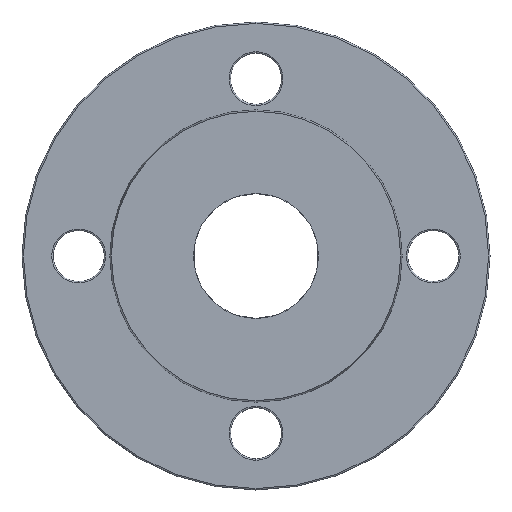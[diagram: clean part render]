
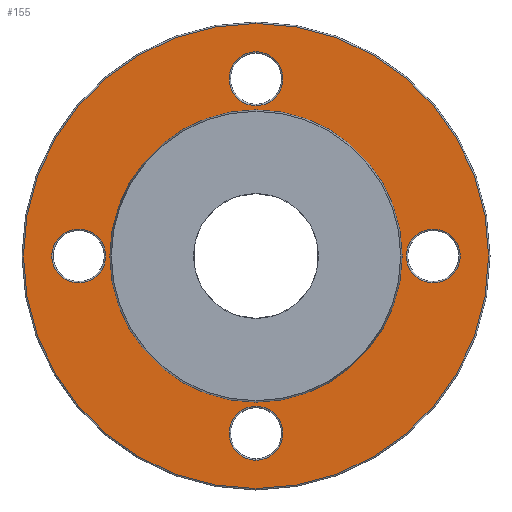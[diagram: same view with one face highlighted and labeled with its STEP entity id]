
A CAD part, left-side view. The second image highlights one B-rep face of the part: STEP entity #155.
In plain terms, the highlighted planar face has unit normal (-1, 0, 0).
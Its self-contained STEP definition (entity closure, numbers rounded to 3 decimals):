
#118 = EDGE_CURVE ( 'NONE', #615, #616, #359, .T. ) ;
#121 = EDGE_CURVE ( 'NONE', #655, #662, #352, .T. ) ;
#122 = EDGE_CURVE ( 'NONE', #646, #643, #350, .T. ) ;
#123 = EDGE_CURVE ( 'NONE', #629, #628, #348, .T. ) ;
#124 = EDGE_CURVE ( 'NONE', #625, #624, #346, .T. ) ;
#125 = EDGE_CURVE ( 'NONE', #621, #620, #344, .T. ) ;
#126 = EDGE_CURVE ( 'NONE', #616, #615, #342, .T. ) ;
#155 = ADVANCED_FACE ( 'NONE', ( #963, #968, #970, #972, #966, #967 ), #974, .F. ) ;
#202 = CARTESIAN_POINT ( 'NONE',  ( 3., 0., 0. ) ) ;
#203 = DIRECTION ( 'NONE',  ( -1., 0., 0. ) ) ;
#204 = DIRECTION ( 'NONE',  ( 0., 0., -1. ) ) ;
#208 = CARTESIAN_POINT ( 'NONE',  ( 3., 0., -62.5 ) ) ;
#209 = DIRECTION ( 'NONE',  ( 1., 0., 0. ) ) ;
#210 = DIRECTION ( 'NONE',  ( 0., 0., -1. ) ) ;
#241 = CARTESIAN_POINT ( 'NONE',  ( 3., -62.5, 0. ) ) ;
#242 = DIRECTION ( 'NONE',  ( 1., 0., 0. ) ) ;
#243 = DIRECTION ( 'NONE',  ( 0., 0., -1. ) ) ;
#244 = CARTESIAN_POINT ( 'NONE',  ( 3., 0., 62.5 ) ) ;
#245 = DIRECTION ( 'NONE',  ( 1., 0., 0. ) ) ;
#246 = DIRECTION ( 'NONE',  ( 0., 0., -1. ) ) ;
#284 = AXIS2_PLACEMENT_3D ( 'NONE', #971, #975, #976 ) ;
#337 = AXIS2_PLACEMENT_3D ( 'NONE', #721, #722, #723 ) ;
#339 = AXIS2_PLACEMENT_3D ( 'NONE', #718, #719, #720 ) ;
#341 = AXIS2_PLACEMENT_3D ( 'NONE', #715, #716, #717 ) ;
#342 = CIRCLE ( 'NONE', #337, 9.5 ) ;
#343 = AXIS2_PLACEMENT_3D ( 'NONE', #712, #713, #714 ) ;
#344 = CIRCLE ( 'NONE', #339, 9.5 ) ;
#345 = AXIS2_PLACEMENT_3D ( 'NONE', #709, #710, #711 ) ;
#346 = CIRCLE ( 'NONE', #341, 9.5 ) ;
#347 = AXIS2_PLACEMENT_3D ( 'NONE', #706, #707, #708 ) ;
#348 = CIRCLE ( 'NONE', #343, 9.5 ) ;
#350 = CIRCLE ( 'NONE', #345, 82. ) ;
#352 = CIRCLE ( 'NONE', #347, 51.529 ) ;
#353 = AXIS2_PLACEMENT_3D ( 'NONE', #698, #699, #700 ) ;
#359 = CIRCLE ( 'NONE', #353, 9.5 ) ;
#381 = EDGE_CURVE ( 'NONE', #662, #655, #947, .T. ) ;
#405 = EDGE_CURVE ( 'NONE', #643, #646, #893, .T. ) ;
#407 = EDGE_CURVE ( 'NONE', #628, #629, #889, .T. ) ;
#418 = EDGE_CURVE ( 'NONE', #624, #625, #869, .T. ) ;
#419 = EDGE_CURVE ( 'NONE', #620, #621, #865, .T. ) ;
#474 = ORIENTED_EDGE ( 'NONE', *, *, #122, .T. ) ;
#475 = ORIENTED_EDGE ( 'NONE', *, *, #405, .T. ) ;
#476 = ORIENTED_EDGE ( 'NONE', *, *, #407, .T. ) ;
#477 = ORIENTED_EDGE ( 'NONE', *, *, #123, .T. ) ;
#478 = ORIENTED_EDGE ( 'NONE', *, *, #418, .T. ) ;
#479 = ORIENTED_EDGE ( 'NONE', *, *, #124, .T. ) ;
#480 = ORIENTED_EDGE ( 'NONE', *, *, #419, .T. ) ;
#481 = ORIENTED_EDGE ( 'NONE', *, *, #125, .T. ) ;
#575 = EDGE_LOOP ( 'NONE', ( #1092, #1093 ) ) ;
#576 = EDGE_LOOP ( 'NONE', ( #1089, #1090 ) ) ;
#578 = EDGE_LOOP ( 'NONE', ( #474, #475 ) ) ;
#579 = EDGE_LOOP ( 'NONE', ( #480, #481 ) ) ;
#581 = EDGE_LOOP ( 'NONE', ( #476, #477 ) ) ;
#584 = EDGE_LOOP ( 'NONE', ( #478, #479 ) ) ;
#615 = VERTEX_POINT ( 'NONE', #1219 ) ;
#616 = VERTEX_POINT ( 'NONE', #1223 ) ;
#620 = VERTEX_POINT ( 'NONE', #1227 ) ;
#621 = VERTEX_POINT ( 'NONE', #1228 ) ;
#624 = VERTEX_POINT ( 'NONE', #1231 ) ;
#625 = VERTEX_POINT ( 'NONE', #1232 ) ;
#628 = VERTEX_POINT ( 'NONE', #1235 ) ;
#629 = VERTEX_POINT ( 'NONE', #1236 ) ;
#643 = VERTEX_POINT ( 'NONE', #1250 ) ;
#646 = VERTEX_POINT ( 'NONE', #1253 ) ;
#655 = VERTEX_POINT ( 'NONE', #1262 ) ;
#662 = VERTEX_POINT ( 'NONE', #1269 ) ;
#698 = CARTESIAN_POINT ( 'NONE',  ( 3., 62.5, 0. ) ) ;
#699 = DIRECTION ( 'NONE',  ( 1., 0., 0. ) ) ;
#700 = DIRECTION ( 'NONE',  ( 0., 0., -1. ) ) ;
#706 = CARTESIAN_POINT ( 'NONE',  ( 3., 0., 0. ) ) ;
#707 = DIRECTION ( 'NONE',  ( -1., 0., 0. ) ) ;
#708 = DIRECTION ( 'NONE',  ( 0., 0., 1. ) ) ;
#709 = CARTESIAN_POINT ( 'NONE',  ( 3., 0., 0. ) ) ;
#710 = DIRECTION ( 'NONE',  ( -1., 0., 0. ) ) ;
#711 = DIRECTION ( 'NONE',  ( 0., 0., -1. ) ) ;
#712 = CARTESIAN_POINT ( 'NONE',  ( 3., 0., -62.5 ) ) ;
#713 = DIRECTION ( 'NONE',  ( 1., 0., 0. ) ) ;
#714 = DIRECTION ( 'NONE',  ( 0., 0., -1. ) ) ;
#715 = CARTESIAN_POINT ( 'NONE',  ( 3., -62.5, 0. ) ) ;
#716 = DIRECTION ( 'NONE',  ( 1., 0., 0. ) ) ;
#717 = DIRECTION ( 'NONE',  ( 0., 0., -1. ) ) ;
#718 = CARTESIAN_POINT ( 'NONE',  ( 3., 0., 62.5 ) ) ;
#719 = DIRECTION ( 'NONE',  ( 1., 0., 0. ) ) ;
#720 = DIRECTION ( 'NONE',  ( 0., 0., -1. ) ) ;
#721 = CARTESIAN_POINT ( 'NONE',  ( 3., 62.5, 0. ) ) ;
#722 = DIRECTION ( 'NONE',  ( 1., 0., 0. ) ) ;
#723 = DIRECTION ( 'NONE',  ( 0., 0., -1. ) ) ;
#862 = AXIS2_PLACEMENT_3D ( 'NONE', #244, #245, #246 ) ;
#864 = AXIS2_PLACEMENT_3D ( 'NONE', #241, #242, #243 ) ;
#865 = CIRCLE ( 'NONE', #862, 9.5 ) ;
#869 = CIRCLE ( 'NONE', #864, 9.5 ) ;
#886 = AXIS2_PLACEMENT_3D ( 'NONE', #208, #209, #210 ) ;
#889 = CIRCLE ( 'NONE', #886, 9.5 ) ;
#890 = AXIS2_PLACEMENT_3D ( 'NONE', #202, #203, #204 ) ;
#893 = CIRCLE ( 'NONE', #890, 82. ) ;
#938 = AXIS2_PLACEMENT_3D ( 'NONE', #1045, #1046, #1047 ) ;
#947 = CIRCLE ( 'NONE', #938, 51.529 ) ;
#963 = FACE_OUTER_BOUND ( 'NONE', #578, .T. ) ;
#966 = FACE_BOUND ( 'NONE', #576, .T. ) ;
#967 = FACE_BOUND ( 'NONE', #575, .T. ) ;
#968 = FACE_BOUND ( 'NONE', #581, .T. ) ;
#970 = FACE_BOUND ( 'NONE', #584, .T. ) ;
#971 = CARTESIAN_POINT ( 'NONE',  ( 3., 82.5, 0. ) ) ;
#972 = FACE_BOUND ( 'NONE', #579, .T. ) ;
#974 = PLANE ( 'NONE',  #284 ) ;
#975 = DIRECTION ( 'NONE',  ( 1., 0., 0. ) ) ;
#976 = DIRECTION ( 'NONE',  ( 0., 0., -1. ) ) ;
#1045 = CARTESIAN_POINT ( 'NONE',  ( 3., 0., 0. ) ) ;
#1046 = DIRECTION ( 'NONE',  ( -1., 0., 0. ) ) ;
#1047 = DIRECTION ( 'NONE',  ( 0., 0., 1. ) ) ;
#1089 = ORIENTED_EDGE ( 'NONE', *, *, #118, .T. ) ;
#1090 = ORIENTED_EDGE ( 'NONE', *, *, #126, .T. ) ;
#1092 = ORIENTED_EDGE ( 'NONE', *, *, #121, .F. ) ;
#1093 = ORIENTED_EDGE ( 'NONE', *, *, #381, .F. ) ;
#1219 = CARTESIAN_POINT ( 'NONE',  ( 3., 62.5, -9.5 ) ) ;
#1223 = CARTESIAN_POINT ( 'NONE',  ( 3., 62.5, 9.5 ) ) ;
#1227 = CARTESIAN_POINT ( 'NONE',  ( 3., 0., 53. ) ) ;
#1228 = CARTESIAN_POINT ( 'NONE',  ( 3., 0., 72. ) ) ;
#1231 = CARTESIAN_POINT ( 'NONE',  ( 3., -62.5, -9.5 ) ) ;
#1232 = CARTESIAN_POINT ( 'NONE',  ( 3., -62.5, 9.5 ) ) ;
#1235 = CARTESIAN_POINT ( 'NONE',  ( 3., 0., -72. ) ) ;
#1236 = CARTESIAN_POINT ( 'NONE',  ( 3., 0., -53. ) ) ;
#1250 = CARTESIAN_POINT ( 'NONE',  ( 3., 0., 82. ) ) ;
#1253 = CARTESIAN_POINT ( 'NONE',  ( 3., 0., -82. ) ) ;
#1262 = CARTESIAN_POINT ( 'NONE',  ( 3., 0., -51.529 ) ) ;
#1269 = CARTESIAN_POINT ( 'NONE',  ( 3., 0., 51.529 ) ) ;
